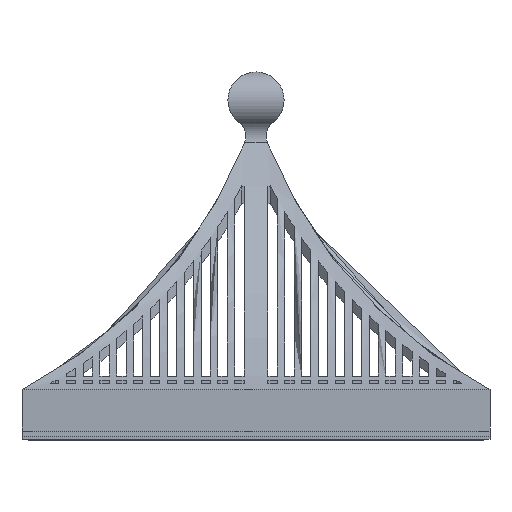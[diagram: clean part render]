
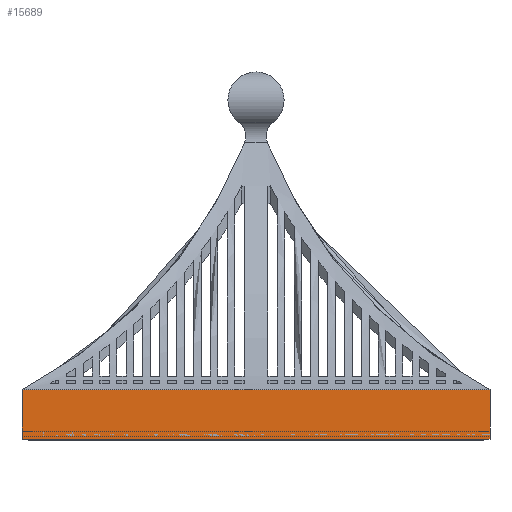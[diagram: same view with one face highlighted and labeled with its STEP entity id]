
A CAD part, front view. The second image highlights one B-rep face of the part: STEP entity #15689.
In plain terms, the highlighted planar face has unit normal (0, -1, 0).
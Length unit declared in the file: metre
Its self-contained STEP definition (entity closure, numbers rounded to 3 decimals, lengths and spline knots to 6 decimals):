
#483=LINE('',#24214,#2025);
#652=LINE('',#25384,#2194);
#655=LINE('',#25390,#2197);
#657=LINE('',#25394,#2199);
#2025=VECTOR('',#19166,1.);
#2194=VECTOR('',#20141,1.);
#2197=VECTOR('',#20148,1.);
#2199=VECTOR('',#20152,1.);
#3361=PLANE('',#17358);
#5387=ORIENTED_EDGE('',*,*,#9436,.T.);
#5388=ORIENTED_EDGE('',*,*,#10005,.F.);
#5389=ORIENTED_EDGE('',*,*,#10010,.F.);
#5390=ORIENTED_EDGE('',*,*,#10008,.T.);
#9436=EDGE_CURVE('',#11574,#11386,#483,.T.);
#10005=EDGE_CURVE('',#12318,#11386,#652,.T.);
#10008=EDGE_CURVE('',#12320,#11574,#655,.T.);
#10010=EDGE_CURVE('',#12320,#12318,#657,.T.);
#11386=VERTEX_POINT('',#23448);
#11574=VERTEX_POINT('',#23832);
#12318=VERTEX_POINT('',#25383);
#12320=VERTEX_POINT('',#25391);
#13586=EDGE_LOOP('',(#5387,#5388,#5389,#5390));
#14761=FACE_BOUND('',#13586,.T.);
#15689=ADVANCED_FACE('',(#14761),#3361,.F.);
#17358=AXIS2_PLACEMENT_3D('',#25393,#20150,#20151);
#19166=DIRECTION('',(-1.,0.,0.));
#20141=DIRECTION('',(0.,0.,1.));
#20148=DIRECTION('',(0.,0.,1.));
#20150=DIRECTION('',(0.,1.,0.));
#20151=DIRECTION('',(0.,0.,1.));
#20152=DIRECTION('',(-1.,0.,0.));
#23448=CARTESIAN_POINT('',(-0.05,-0.05,0.01));
#23832=CARTESIAN_POINT('',(0.05,-0.05,0.01));
#24214=CARTESIAN_POINT('',(0.05,-0.05,0.01));
#25383=CARTESIAN_POINT('',(-0.05,-0.05,-0.0006));
#25384=CARTESIAN_POINT('',(-0.05,-0.05,0.005));
#25390=CARTESIAN_POINT('',(0.05,-0.05,0.005));
#25391=CARTESIAN_POINT('',(0.05,-0.05,-0.0006));
#25393=CARTESIAN_POINT('',(0.05,-0.05,0.005));
#25394=CARTESIAN_POINT('',(0.,-0.05,-0.0006));
